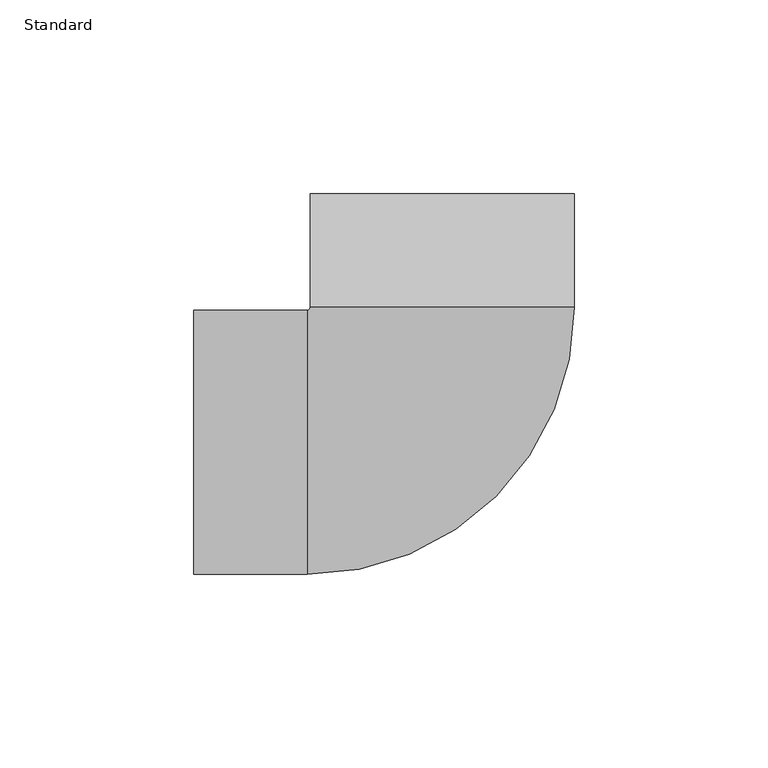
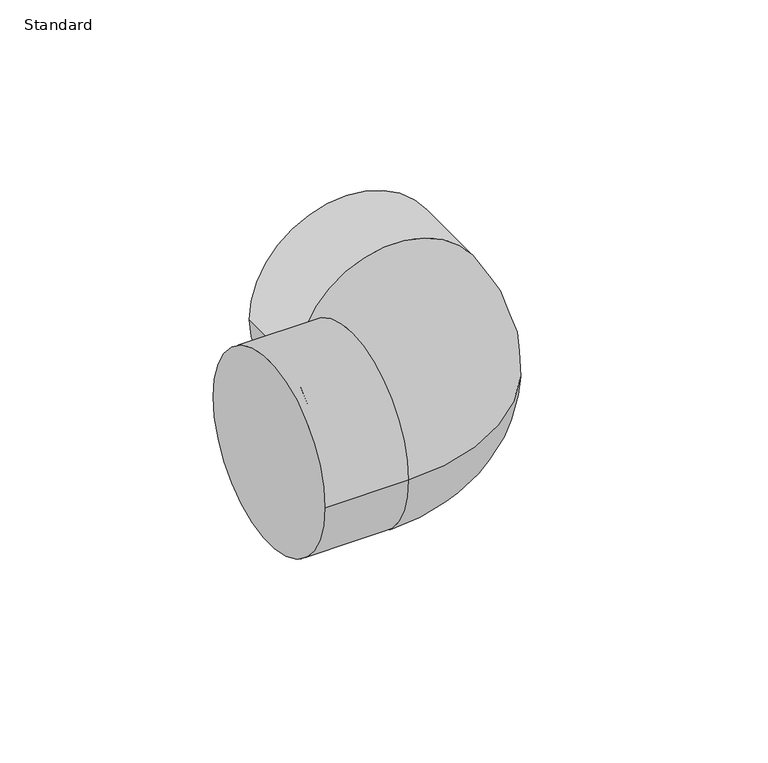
"""IFC4 building model written with IfcOpenShell, lengths in millimetres: pipe fitting geometry, M_Elbow - CPVC - Sch 40 : Standard."""

from ifc_helpers import new_model, si_unit, point, frame, origin, place, context, project, spatial, circle_curve, ellipse_curve, trimmed, source, transform, mapped, element, save
from ifc_brep_helpers import plane_surface, cylinder_surface, revolved_surface, advanced_brep


def standard_57727813(model_context):
    return source(origin(), model_context, "Body", "AdvancedBrep", [
        advanced_brep(
        [(-64.29375, -34.1376, 0.0), (-64.29375, 34.1376, 0.0), (-34.93135, -34.1376, 0.0), (-34.93135, 34.1376, 0.0), (-34.1376, 34.93135, 0.0), (34.1376, 34.93135, 0.0), (34.1376, 64.29375, 0.0), (-34.1376, 64.29375, 0.0)],
        [
            (0, 1, circle_curve(frame((-64.29375, 0.0, 0.0), z_axis=(-1.0, 0.0, 0.0), x_axis=(0.0, 1.0, 0.0)), 34.1376)),
            (1, 0, circle_curve(frame((-64.29375, 0.0, 0.0), z_axis=(-1.0, 0.0, 0.0), x_axis=(0.0, 1.0, 0.0)), 34.1376)),
            (0, 2),
            (2, 3, circle_curve(frame((-34.93135, 0.0, 0.0), z_axis=(-1.0, 0.0, 0.0), x_axis=(0.0, 1.0, 0.0)), 34.1376)),
            (3, 1),
            (3, 2, circle_curve(frame((-34.93135, 0.0, 0.0), z_axis=(-1.0, 0.0, 0.0), x_axis=(0.0, 1.0, 0.0)), 34.1376)),
            (4, 3, circle_curve(frame((-34.93135, 34.93135, 0.0), z_axis=(0.0, 0.0, -1.0), x_axis=(0.0, -1.0, 0.0)), 0.79375)),
            (2, 5, circle_curve(frame((-34.93135, 34.93135, 0.0), z_axis=(0.0, 0.0, 1.0), x_axis=(0.0, -1.0, 0.0)), 69.06895)),
            (5, 4, circle_curve(frame((0.0, 34.93135, 0.0), z_axis=(0.0, -1.0, 0.0), x_axis=(-1.0, 0.0, 0.0)), 34.1376)),
            (4, 5, circle_curve(frame((0.0, 34.93135, 0.0), z_axis=(0.0, -1.0, 0.0), x_axis=(-1.0, 0.0, 0.0)), 34.1376)),
            (6, 7, circle_curve(frame((0.0, 64.29375, 0.0), z_axis=(0.0, 1.0, 0.0), x_axis=(-1.0, 0.0, 0.0)), 34.1376)),
            (7, 6, circle_curve(frame((0.0, 64.29375, 0.0), z_axis=(0.0, 1.0, 0.0), x_axis=(-1.0, 0.0, 0.0)), 34.1376)),
            (5, 6),
            (7, 4),
        ],
        [
            plane_surface(frame((-64.29375, 0.0, 0.0), z_axis=(-1.0, 0.0, 0.0), x_axis=(0.0, 0.0, 1.0))),
            cylinder_surface(frame((-64.29375, 0.0, 0.0), z_axis=(-1.0, 0.0, 0.0), x_axis=(0.0, 1.0, 0.0)), 34.1376),
            revolved_surface(trimmed(ellipse_curve(frame((-34.93135, 0.0, 0.0), z_axis=(-1.0, 0.0, 0.0), x_axis=(0.0, 1.0, 0.0)), 34.1376, 34.1376), [point((-34.93135, -34.1376, 0.0))], [point((-34.93135, 34.1376, 0.0))], True, "CARTESIAN"), (-34.93135, 34.93135, 0.0), (0.0, 0.0, 1.0)),
            revolved_surface(trimmed(ellipse_curve(frame((-34.93135, 0.0, 0.0), z_axis=(-1.0, 0.0, 0.0), x_axis=(0.0, 1.0, 0.0)), 34.1376, 34.1376), [point((-34.93135, 34.1376, 0.0))], [point((-34.93135, -34.1376, 0.0))], True, "CARTESIAN"), (-34.93135, 34.93135, 0.0), (0.0, 0.0, 1.0)),
            plane_surface(frame((0.0, 64.29375, 0.0), z_axis=(0.0, 1.0, 0.0), x_axis=(0.0, 0.0, 1.0))),
            cylinder_surface(frame((0.0, 34.93135, 0.0), z_axis=(0.0, -1.0, 0.0), x_axis=(-1.0, 0.0, 0.0)), 34.1376),
        ],
        [
            (0, [[1, 2]]),
            (1, [[-1, 3, 4, 5]]),
            (1, [[-2, -5, 6, -3]]),
            (2, [[7, -4, 8, 9]]),
            (3, [[-8, -6, -7, 10]]),
            (4, [[11, 12]]),
            (5, [[-9, 13, -12, 14]]),
            (5, [[-10, -14, -11, -13]]),
        ],
    ),
    ])


if __name__ == "__main__":
    model = new_model("IFC4")
    model_context = context("Model", 3, world=origin())
    ifc_project = project(units=[si_unit("LENGTHUNIT", "METRE", prefix="MILLI")], contexts=[model_context])
    site = spatial("IfcSite", under=ifc_project)
    building = spatial("IfcBuilding", under=site)
    placement = place(None, origin())
    standard_shape = standard_57727813(model_context)
    element("IfcPipeFitting", 1, ObjectType="M_Elbow - CPVC - Sch 40 : Standard", at=placement, inside=building, context=model_context, shape_type="MappedRepresentation", body=[
        mapped(standard_shape, transform((0.0, 0.0, 0.0), x_axis=(1.0, 0.0, 0.0), y_axis=(0.0, 1.0, 0.0), z_axis=(0.0, 0.0, 1.0))),
    ])
    save(model, "model.ifc")
